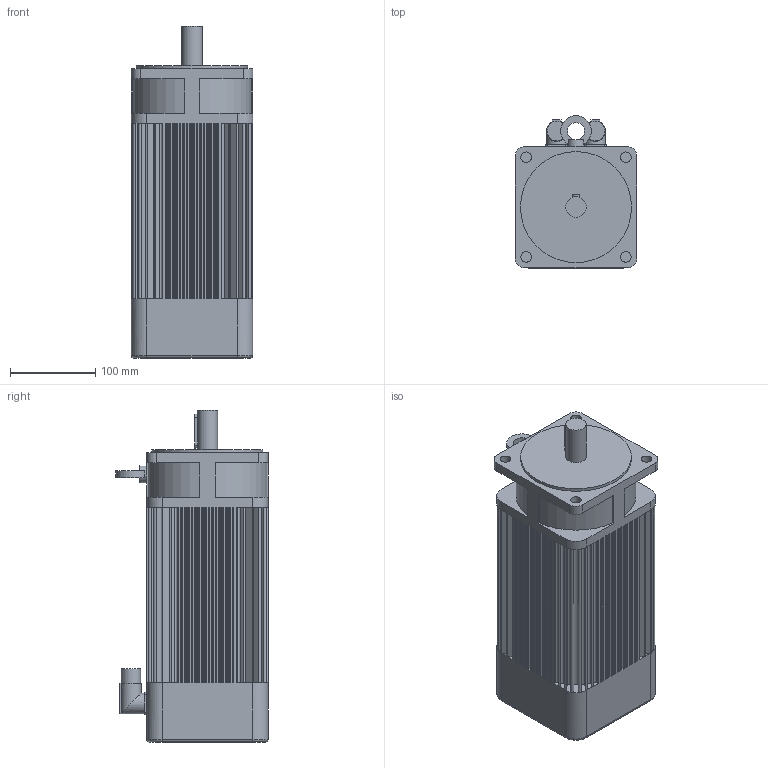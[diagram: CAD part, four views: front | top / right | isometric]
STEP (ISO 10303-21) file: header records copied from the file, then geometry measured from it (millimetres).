
FILE_DESCRIPTION(/* description */ (''),/* implementation_level */ '2;1');
FILE_NAME(/* name */ '\\Lafnas01\disegni\Archivi Lafert\3D\CAD 3D\MODELLI\Assiemi clienti\Serad\Modelli 3D Serad\B71I\Resolver\Res With Brake\B7120Ixx6B052033.ipt.stp',/* time_stamp */ '2015-09-07T10:51:56+02:00',/* author */ ('Pastrello Ylenia'),/* organization */ (''),/* preprocessor_version */ 'ST-DEVELOPER v15.6',/* originating_system */ 'Autodesk Inventor 2015',/* authorisation */ '');
FILE_SCHEMA (('AUTOMOTIVE_DESIGN { 1 0 10303 214 3 1 1 }'));
Length unit declared in the file: millimetre
Products named in the file (1): B7120Ixx6B052033
Bounding box: 142 x 178 x 388.5 mm (x, y, z)
Volume: 6358176.6 mm3; surface area: 353445.3 mm2
Topology: 1 solids, 1 shells, 547 faces, 1378 edges, 903 vertices
Faces by surface type: plane 430, cylinder 113, torus 4
Full cylindrical faces by diameter (mm): 12.5 x4, 20 x2, 22.7 x2, 24 x3, 130 x1
Entity records: 16305 total; most frequent: CARTESIAN_POINT 2863, DIRECTION 2786, ORIENTED_EDGE 2724, EDGE_CURVE 1362, LINE 1026, VECTOR 1026, VERTEX_POINT 900, AXIS2_PLACEMENT_3D 880
